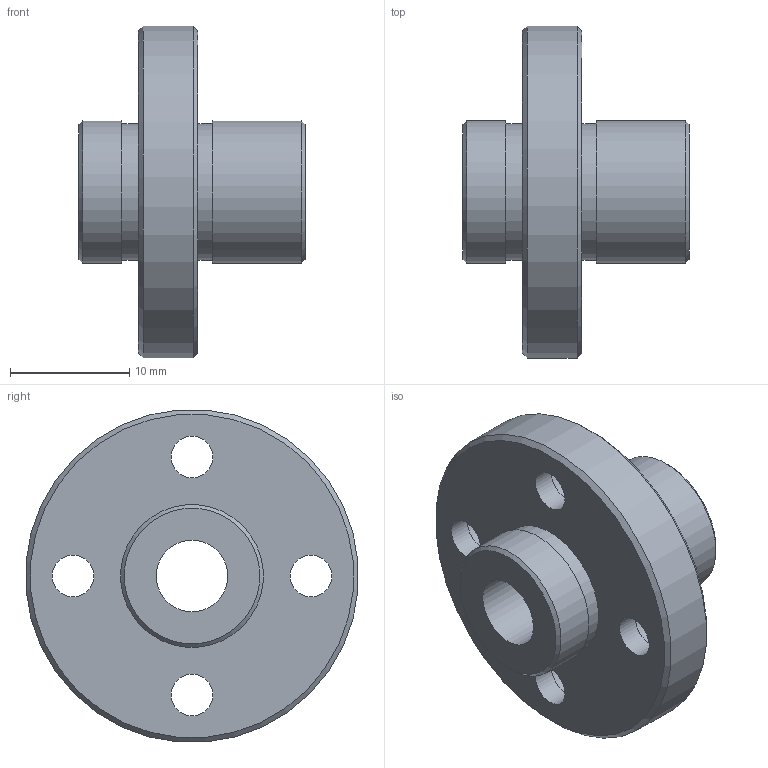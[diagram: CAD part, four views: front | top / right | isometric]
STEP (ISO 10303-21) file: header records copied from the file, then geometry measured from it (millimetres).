
FILE_DESCRIPTION(('STEP AP203'),'1');
FILE_NAME('//192.168.1.1/share/s-4 技術開発/s-4-4_CAD/s-4-4-3_見直し済み/002 修正済み/NFID-V/NFID-V_TOP/NFID-6VUU.step','2022-03-08T02:20:10',(' '),(' '),'Spatial InterOp 3D',' ',' ');
FILE_SCHEMA(('CONFIG_CONTROL_DESIGN'));
Length unit declared in the file: millimetre
Products named in the file (1): 1
Bounding box: 19 x 27.89 x 27.89 mm (x, y, z)
Volume: 3659.9 mm3; surface area: 2718.7 mm2
Topology: 1 solids, 1 shells, 28 faces, 60 edges, 42 vertices
Faces by surface type: cylinder 14, plane 10, cone 4
Full cylindrical faces by diameter (mm): 3.5 x4, 6 x5, 11.5 x2, 12 x2, 28 x1
Entity records: 668 total; most frequent: DIRECTION 122, CARTESIAN_POINT 93, EDGE_LOOP 64, ORIENTED_EDGE 64, AXIS2_PLACEMENT_3D 61, FACE_OUTER_BOUND 42, EDGE_CURVE 32, VERTEX_POINT 32
